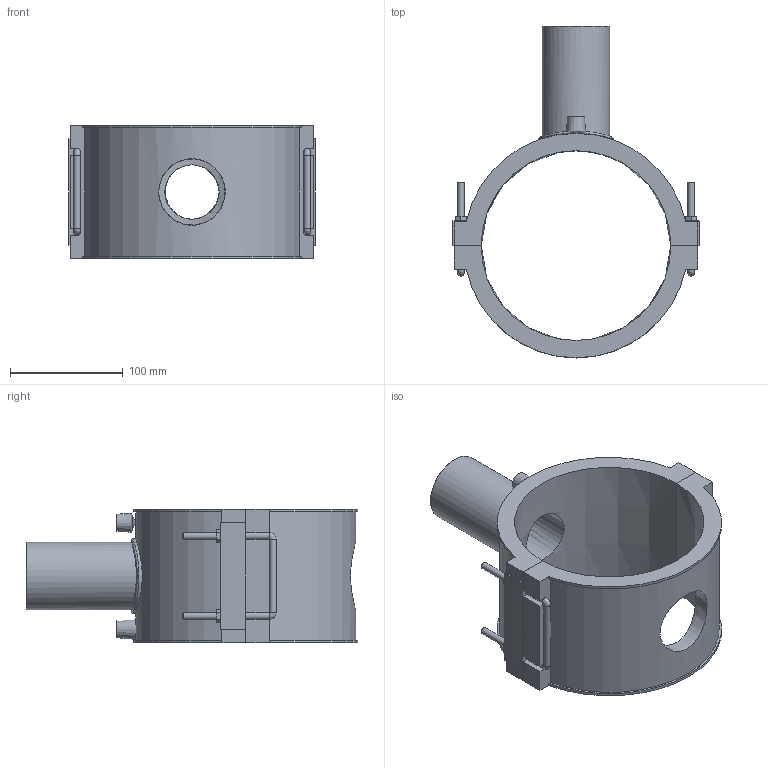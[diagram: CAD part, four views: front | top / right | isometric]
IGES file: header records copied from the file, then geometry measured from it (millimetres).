
Global section: file name: 5958BB03060020.ipt; native system: Autodesk Inventor 2019; preprocessor: unknown; author: KIM; date: 20210830.101258; units: inch
Bounding box: 217.9 x 293.9 x 118.11 mm (x, y, z)
Volume: 1082729.5 mm3; surface area: 212203 mm2
Topology: 2 solids, 2 shells, 133 faces, 340 edges, 214 vertices
Faces by surface type: plane 85, cylinder 22, revolution 10, bspline 9, cone 7
Full cylindrical faces by diameter (mm): 4 x2, 6 x10, 60.1 x1, 66.11 x1
